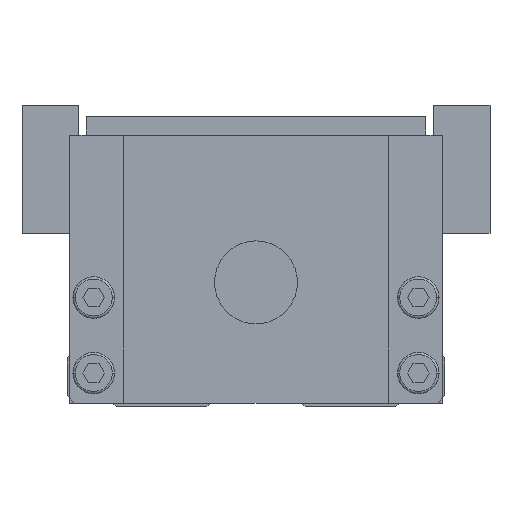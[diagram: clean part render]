
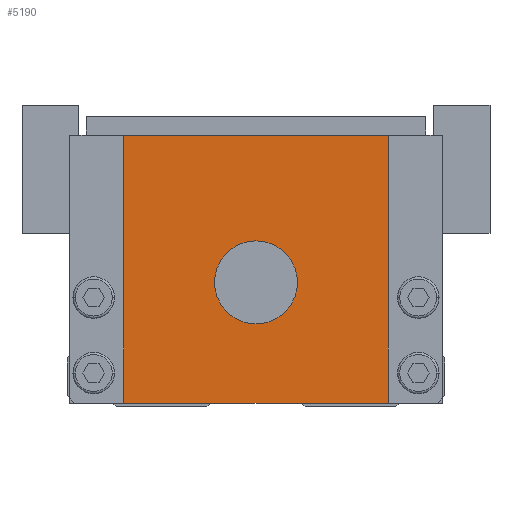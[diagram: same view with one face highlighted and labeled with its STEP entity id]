
A CAD part, front view. The second image highlights one B-rep face of the part: STEP entity #5190.
In plain terms, the highlighted planar face has unit normal (0, -1, 0).
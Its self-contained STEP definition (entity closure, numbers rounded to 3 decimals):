
#5160=EDGE_CURVE('',#5806,#5914,#13338,.T.);
#5190=ADVANCED_FACE('',(#13369,#13370),#13371,.F.);
#5292=EDGE_CURVE('',#8696,#7494,#13481,.T.);
#5806=VERTEX_POINT('',#14055);
#5914=VERTEX_POINT('',#14178);
#6400=EDGE_CURVE('',#7742,#9178,#14727,.T.);
#6534=EDGE_CURVE('',#9178,#7742,#14873,.T.);
#7494=VERTEX_POINT('',#15934);
#7742=VERTEX_POINT('',#16210);
#8696=VERTEX_POINT('',#17263);
#9178=VERTEX_POINT('',#17796);
#9214=EDGE_CURVE('',#5806,#8696,#17841,.T.);
#10018=EDGE_CURVE('',#7494,#5914,#18731,.T.);
#13338=LINE('',#22780,#22781);
#13369=FACE_BOUND('',#22832,.T.);
#13370=FACE_OUTER_BOUND('',#22833,.T.);
#13371=PLANE('',#22834);
#13481=LINE('',#23000,#23001);
#14055=CARTESIAN_POINT('',(-17.5,0.0,36.0));
#14178=CARTESIAN_POINT('',(-17.5,0.0,0.5));
#14727=CIRCLE('',#24738,5.5);
#14873=CIRCLE('',#24955,5.5);
#15934=CARTESIAN_POINT('',(17.5,0.0,0.5));
#16210=CARTESIAN_POINT('',(5.5,0.0,16.5));
#17263=CARTESIAN_POINT('',(17.5,0.0,36.0));
#17796=CARTESIAN_POINT('',(-5.5,0.0,16.5));
#17841=LINE('',#29151,#29152);
#18731=LINE('',#30487,#30488);
#22780=CARTESIAN_POINT('',(-17.5,0.0,18.25));
#22781=VECTOR('',#35267,1.0);
#22832=EDGE_LOOP('',(#35292,#35293));
#22833=EDGE_LOOP('',(#35294,#35295,#35296,#35297));
#22834=AXIS2_PLACEMENT_3D('',#35298,#35299,#35300);
#23000=CARTESIAN_POINT('',(17.5,0.0,18.25));
#23001=VECTOR('',#35408,1.0);
#24738=AXIS2_PLACEMENT_3D('',#36928,#36929,#36930);
#24955=AXIS2_PLACEMENT_3D('',#37084,#37085,#37086);
#29151=CARTESIAN_POINT('',(0.0,0.0,36.0));
#29152=VECTOR('',#40515,1.0);
#30487=CARTESIAN_POINT('',(0.0,0.0,0.5));
#30488=VECTOR('',#41455,1.0);
#35267=DIRECTION('',(0.0,0.0,-1.0));
#35292=ORIENTED_EDGE('',*,*,#6400,.T.);
#35293=ORIENTED_EDGE('',*,*,#6534,.T.);
#35294=ORIENTED_EDGE('',*,*,#5160,.T.);
#35295=ORIENTED_EDGE('',*,*,#10018,.F.);
#35296=ORIENTED_EDGE('',*,*,#5292,.F.);
#35297=ORIENTED_EDGE('',*,*,#9214,.F.);
#35298=CARTESIAN_POINT('',(0.0,0.0,18.25));
#35299=DIRECTION('',(0.0,1.0,0.0));
#35300=DIRECTION('',(0.0,0.0,1.0));
#35408=DIRECTION('',(0.0,0.0,-1.0));
#36928=CARTESIAN_POINT('',(0.0,0.0,16.5));
#36929=DIRECTION('',(-0.0,1.0,0.0));
#36930=DIRECTION('',(1.0,0.0,0.0));
#37084=CARTESIAN_POINT('',(0.0,0.0,16.5));
#37085=DIRECTION('',(-0.0,1.0,0.0));
#37086=DIRECTION('',(1.0,0.0,0.0));
#40515=DIRECTION('',(1.0,0.0,0.0));
#41455=DIRECTION('',(-1.0,0.0,0.0));
